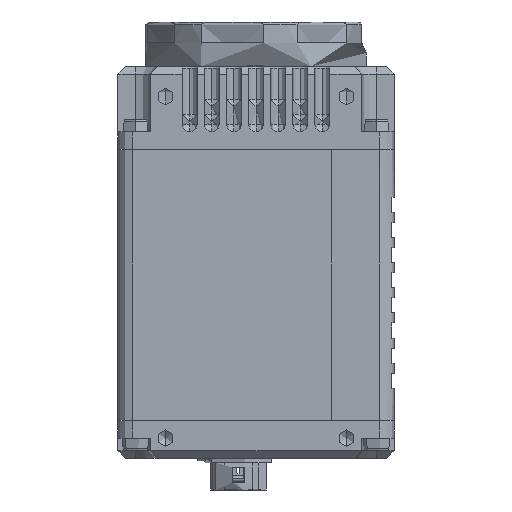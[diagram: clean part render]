
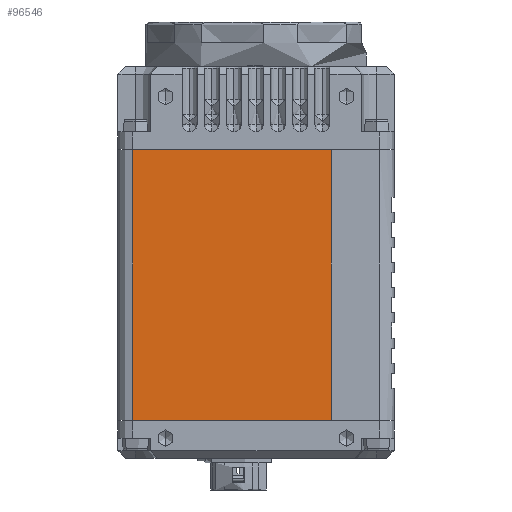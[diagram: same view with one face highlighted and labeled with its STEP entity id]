
A CAD part, left-side view. The second image highlights one B-rep face of the part: STEP entity #96546.
In plain terms, the highlighted planar face has unit normal (-1, 0, 0).
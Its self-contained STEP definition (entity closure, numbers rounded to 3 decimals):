
#24819 = DIRECTION ( 'NONE',  ( 0., 0., -1. ) ) ;
#26108 = CARTESIAN_POINT ( 'NONE',  ( -27.5, -15., -0.05 ) ) ;
#34745 = VECTOR ( 'NONE', #117578, 1000. ) ;
#44448 = ORIENTED_EDGE ( 'NONE', *, *, #92285, .F. ) ;
#45683 = DIRECTION ( 'NONE',  ( 0., -1., 0. ) ) ;
#52265 = EDGE_LOOP ( 'NONE', ( #44448, #60555, #61607, #148027 ) ) ;
#53628 = CARTESIAN_POINT ( 'NONE',  ( -27.5, -15., -53.95 ) ) ;
#55371 = VERTEX_POINT ( 'NONE', #53628 ) ;
#56522 = CARTESIAN_POINT ( 'NONE',  ( -27.5, 24.5, -0.05 ) ) ;
#57014 = CARTESIAN_POINT ( 'NONE',  ( -27.5, 27.5, -0.05 ) ) ;
#59630 = LINE ( 'NONE', #156268, #121224 ) ;
#60555 = ORIENTED_EDGE ( 'NONE', *, *, #72718, .T. ) ;
#61607 = ORIENTED_EDGE ( 'NONE', *, *, #81612, .T. ) ;
#65467 = VECTOR ( 'NONE', #24819, 1000. ) ;
#68600 = CARTESIAN_POINT ( 'NONE',  ( -27.5, 24.5, -0.05 ) ) ;
#72718 = EDGE_CURVE ( 'NONE', #140035, #98818, #180143, .T. ) ;
#78731 = AXIS2_PLACEMENT_3D ( 'NONE', #57014, #112693, #84809 ) ;
#81612 = EDGE_CURVE ( 'NONE', #98818, #55371, #161324, .T. ) ;
#84809 = DIRECTION ( 'NONE',  ( 0., 1., 0. ) ) ;
#85265 = EDGE_CURVE ( 'NONE', #178490, #55371, #153497, .T. ) ;
#88378 = VECTOR ( 'NONE', #149821, 1000. ) ;
#92285 = EDGE_CURVE ( 'NONE', #140035, #178490, #59630, .T. ) ;
#96546 = ADVANCED_FACE ( 'NONE', ( #180670 ), #154563, .F. ) ;
#98818 = VERTEX_POINT ( 'NONE', #118001 ) ;
#112693 = DIRECTION ( 'NONE',  ( 1., 0., 0. ) ) ;
#117578 = DIRECTION ( 'NONE',  ( 0., -1., 0. ) ) ;
#118001 = CARTESIAN_POINT ( 'NONE',  ( -27.5, 24.5, -53.95 ) ) ;
#121224 = VECTOR ( 'NONE', #45683, 1000. ) ;
#140035 = VERTEX_POINT ( 'NONE', #56522 ) ;
#144630 = CARTESIAN_POINT ( 'NONE',  ( -27.5, 27.5, -53.95 ) ) ;
#148027 = ORIENTED_EDGE ( 'NONE', *, *, #85265, .F. ) ;
#149821 = DIRECTION ( 'NONE',  ( 0., 0., -1. ) ) ;
#153497 = LINE ( 'NONE', #26108, #88378 ) ;
#154563 = PLANE ( 'NONE',  #78731 ) ;
#156268 = CARTESIAN_POINT ( 'NONE',  ( -27.5, 27.5, -0.05 ) ) ;
#160208 = CARTESIAN_POINT ( 'NONE',  ( -27.5, -15., -0.05 ) ) ;
#161324 = LINE ( 'NONE', #144630, #34745 ) ;
#178490 = VERTEX_POINT ( 'NONE', #160208 ) ;
#180143 = LINE ( 'NONE', #68600, #65467 ) ;
#180670 = FACE_OUTER_BOUND ( 'NONE', #52265, .T. ) ;
